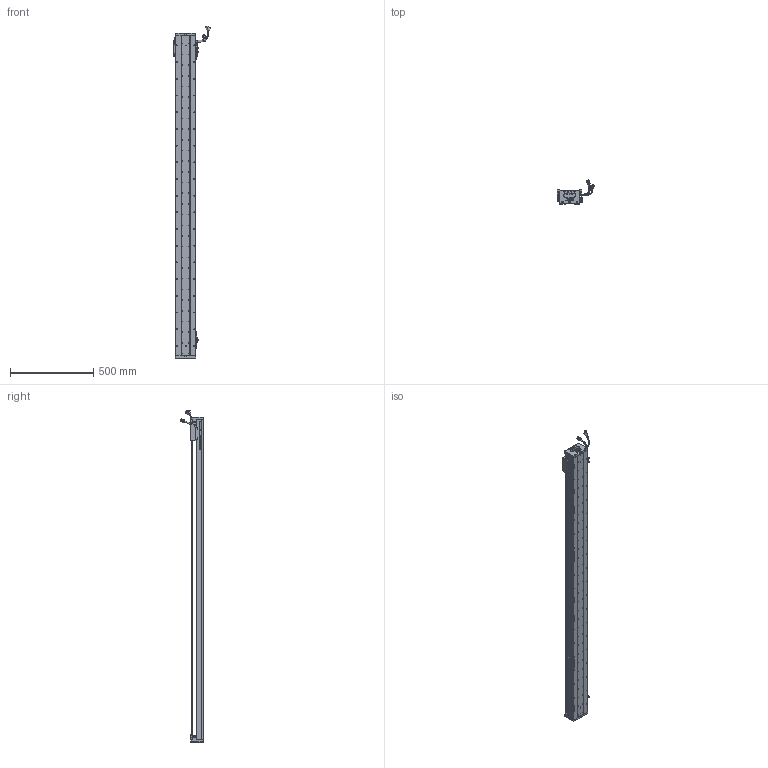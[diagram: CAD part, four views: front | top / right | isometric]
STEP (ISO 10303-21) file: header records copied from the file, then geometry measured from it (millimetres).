
FILE_DESCRIPTION (( 'STEP AP203' ), '1' );
FILE_NAME ('Z1-RY120D-1-L500-B-K.SLDASM_1750.step', '2021-05-17T03:48:47', ( '盈信电脑' ), ( '东莞市道滘镇水果街19号' ), 'SwSTEP 2.0', 'SolidWorks 2016', '' );
FILE_SCHEMA (( 'CONFIG_CONTROL_DESIGN' ));
Length unit declared in the file: millimetre
Products named in the file (37): 080黍杅芛假蚾釱21遴; HOLDER0; 140雄赽晤鎢ん堤盄; Z-RY120D詩湍奻揤裔; HARNESS; SEAL; LABEL-Part-1; Z-RY120D詩湍狟揤裔; LABEL; COVER; 672嫖萇羲壽假蚾釱; Z1-RY120D-1-L500-B-K.SLDASM_1750; Z1-RY120-L500詩湍100mm遵_1750; SEAL-Part-1; 120-Z-臏賑輸盄裔(21遴); SCREW-M1.6-2; SCALE; SCREW-M1.6-1; PSLH080_PSLF2; HARNESS-Part-1; Z1-RY120铝滑块（21款）; PBU_SHEET; SCREW-M1.6-3; COVER-Part-1; RY100FB-遵嫖萇覜茼え; SCALE-Part-1; SHIELDPLATE; 榋妏寠巭燃_暯_M2_2; 140蚥薯蝶輸; Z1-RY120-500-倰第菁釱_1750; HARNESS-Part-2; SCALE-Part-2; SCREW-M1.7; Z-120詩湍傷裔啣; 覜茼ん672; SCREW-M1.7-1; SCREW-M1.6
Assembly tree (43 placements, depth 4):
  Z1-RY120D-1-L500-B-K.SLDASM_1750
    Z1-RY120-500-倰第菁釱_1750
    覜茼ん672  x3
    672嫖萇羲壽假蚾釱  x2
    Z1-RY120铝滑块（21款）
    PSLH080_PSLF2
      SCALE
        SCALE-Part-1
        SCALE-Part-2
      HARNESS
        HARNESS-Part-1
        HARNESS-Part-2
      LABEL
        LABEL-Part-1
      COVER
        COVER-Part-1
      SEAL
        SEAL-Part-1
      榋妏寠巭燃_暯_M2_2
      SHIELDPLATE
      SCREW-M1.7
      SCREW-M1.7-1
      PBU_SHEET
      SCREW-M1.6
      SCREW-M1.6-1
      SCREW-M1.6-2
      SCREW-M1.6-3
      HOLDER0
    080黍杅芛假蚾釱21遴
    120-Z-臏賑輸盄裔(21遴)
    140雄赽晤鎢ん堤盄
    140蚥薯蝶輸  x2
    RY100FB-遵嫖萇覜茼え
    Z-120詩湍傷裔啣  x2
    Z-RY120D詩湍奻揤裔  x2
    Z-RY120D詩湍狟揤裔  x2
    Z1-RY120-L500詩湍100mm遵_1750
Bounding box: 222.88 x 140.94 x 1988.99 mm (x, y, z)
Volume: 4562699.3 mm3; surface area: 1628899.2 mm2
Topology: 38 solids, 38 shells, 3225 faces, 9032 edges, 5706 vertices
Faces by surface type: cylinder 1598, plane 1183, cone 322, torus 69, bspline 53
Entity records: 104195 total; most frequent: CARTESIAN_POINT 30732, ORIENTED_EDGE 14944, DIRECTION 13948, EDGE_CURVE 7472, AXIS2_PLACEMENT_3D 5116, VERTEX_POINT 4826, VECTOR 3716, LINE 3716
